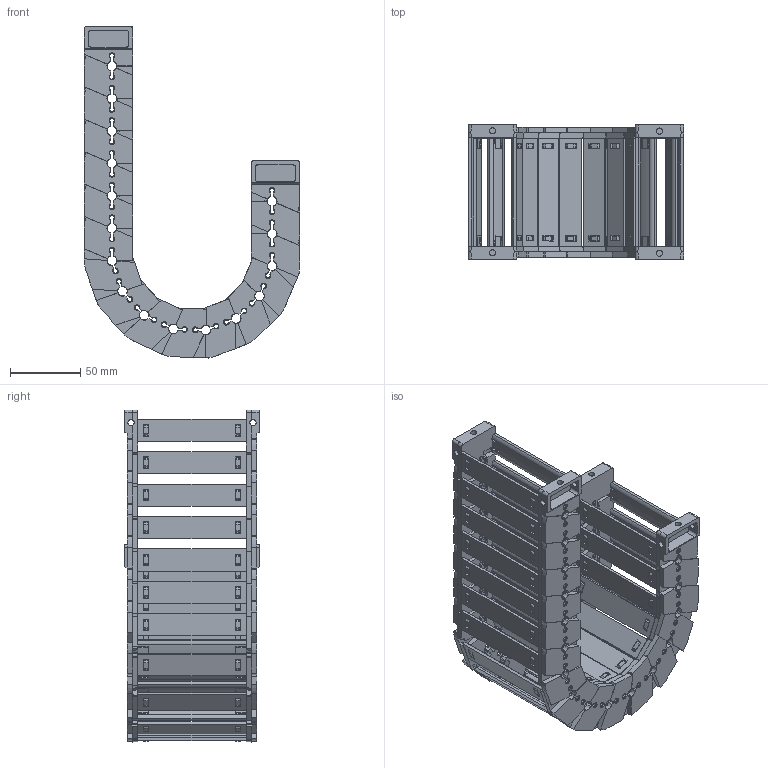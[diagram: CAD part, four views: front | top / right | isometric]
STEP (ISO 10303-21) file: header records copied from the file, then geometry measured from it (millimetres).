
FILE_DESCRIPTION((''),'2;1');
FILE_NAME('JY-28X77-R55_ASM','2026-03-26T08:20:46',('admin'),(''),'CREO PARAMETRIC BY PTC INC, 2021023','CREO PARAMETRIC BY PTC INC, 2021023','');
FILE_SCHEMA(('CONFIG_CONTROL_DESIGN'));
Length unit declared in the file: millimetre
Products named in the file (11): 28XL-L; 25-35XL-YP; 28XL-R; ASM0001_ASM; 28-LTT-A-L; 28-LTT-A-R; 28XL-LTT-A_ASM; 28-LTT-B-L; 28-LTT-B-R; 28XL-LTT-B_ASM; JY-28X77-R55_ASM
Assembly tree (29 placements, depth 3):
  JY-28X77-R55_ASM
    ASM0001_ASM  x15
      28XL-L
      25-35XL-YP
      28XL-R
    28XL-LTT-A_ASM
      28-LTT-A-L
      25-35XL-YP  x2
      28-LTT-A-R
    28XL-LTT-B_ASM
      28-LTT-B-L
      25-35XL-YP  x2
      28-LTT-B-R
Bounding box: 153.11 x 95.5 x 235.62 mm (x, y, z)
Volume: 305150.3 mm3; surface area: 221550.7 mm2
Topology: 68 solids, 68 shells, 5486 faces, 16300 edges, 10882 vertices
Faces by surface type: plane 3597, cone 973, cylinder 796, bspline 120
Entity records: 29071 total; most frequent: CARTESIAN_POINT 9487, ORIENTED_EDGE 4352, DIRECTION 3649, EDGE_CURVE 2176, VERTEX_POINT 1454, VECTOR 1365, LINE 1365, AXIS2_PLACEMENT_3D 1142
